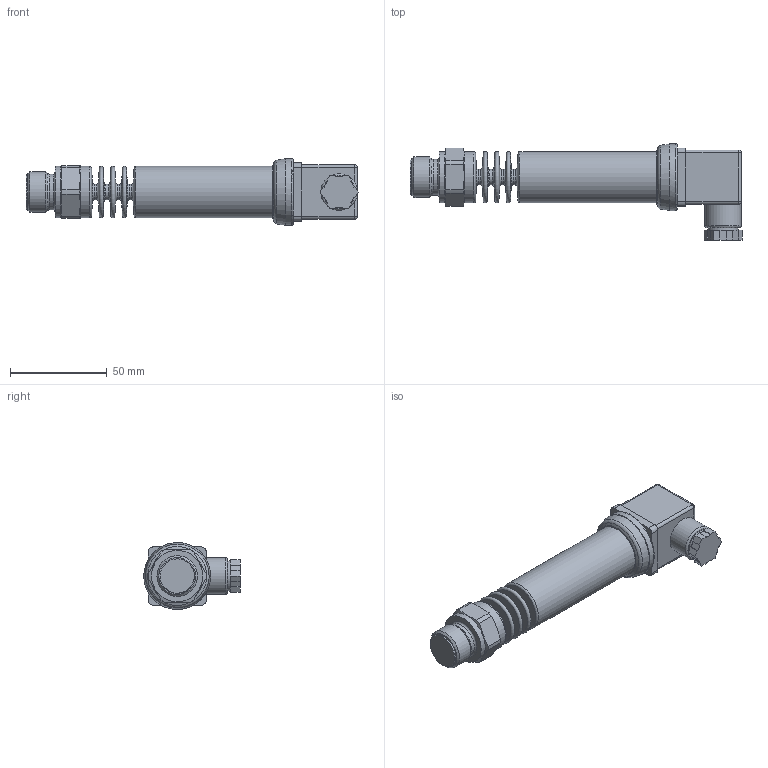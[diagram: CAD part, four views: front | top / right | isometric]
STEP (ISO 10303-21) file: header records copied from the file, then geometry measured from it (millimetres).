
FILE_DESCRIPTION(/* description */ (''),/* implementation_level */ '2;1');
FILE_NAME(/* name */ 'C:\Users\cz1166\Documents\STEP\DMP331Pi-50x-xxxx-x-x-100-Z00-1-x-x-211.stp',/* time_stamp */ '2020-04-20T15:48:52+02:00',/* author */ ('cz1166'),/* organization */ (''),/* preprocessor_version */ 'ST-DEVELOPER v16.5',/* originating_system */ 'Autodesk Inventor 2017',/* authorisation */ '');
FILE_SCHEMA (('AUTOMOTIVE_DESIGN { 1 0 10303 214 3 1 1 }'));
Length unit declared in the file: millimetre
Products named in the file (1): DMP331Pi-50x-xxxx-x-x-100-Z00-1-x-x-211
Bounding box: 171.39 x 49.74 x 34.46 mm (x, y, z)
Volume: 100599.6 mm3; surface area: 20890.5 mm2
Topology: 1 solids, 1 shells, 131 faces, 322 edges, 195 vertices
Faces by surface type: plane 61, cylinder 32, torus 20, cone 14, sphere 4
Full cylindrical faces by diameter (mm): 8 x4, 15.7 x1, 17.7 x1, 18.4 x1, 18.8 x1, 20.955 x1, 26.5 x3, 34.5 x1
Entity records: 3613 total; most frequent: DIRECTION 608, CARTESIAN_POINT 607, ORIENTED_EDGE 520, EDGE_CURVE 260, AXIS2_PLACEMENT_3D 230, EDGE_LOOP 181, VERTEX_POINT 181, LINE 148
